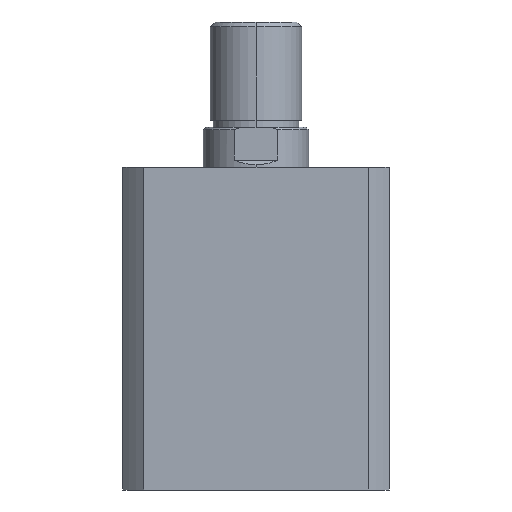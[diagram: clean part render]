
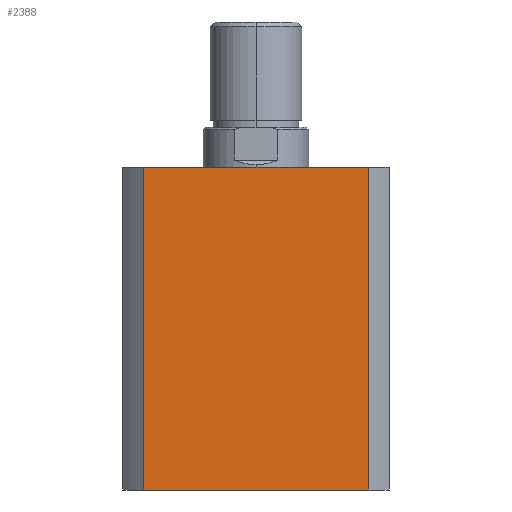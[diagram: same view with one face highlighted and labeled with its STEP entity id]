
A CAD part, left-side view. The second image highlights one B-rep face of the part: STEP entity #2388.
In plain terms, the highlighted planar face has unit normal (-1, 0, 0).
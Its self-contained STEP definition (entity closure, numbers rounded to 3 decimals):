
#99 = DIRECTION ( 'NONE',  ( 0., 0., -1. ) ) ;
#100 = DIRECTION ( 'NONE',  ( 1., 0., 0. ) ) ;
#103 = PLANE ( 'NONE',  #1594 ) ;
#105 = CARTESIAN_POINT ( 'NONE',  ( -57., 0., 138. ) ) ;
#475 = EDGE_CURVE ( 'NONE', #3619, #4977, #3753, .T. ) ;
#627 = EDGE_CURVE ( 'NONE', #3583, #4985, #4537, .T. ) ;
#628 = EDGE_CURVE ( 'NONE', #3619, #3583, #4536, .T. ) ;
#774 = EDGE_CURVE ( 'NONE', #4977, #4985, #3242, .T. ) ;
#979 = DIRECTION ( 'NONE',  ( 0., 0., -1. ) ) ;
#980 = CARTESIAN_POINT ( 'NONE',  ( -57., 47.971, 138. ) ) ;
#1153 = ORIENTED_EDGE ( 'NONE', *, *, #774, .T. ) ;
#1154 = ORIENTED_EDGE ( 'NONE', *, *, #627, .F. ) ;
#1155 = ORIENTED_EDGE ( 'NONE', *, *, #628, .F. ) ;
#1156 = ORIENTED_EDGE ( 'NONE', *, *, #475, .T. ) ;
#1248 = EDGE_LOOP ( 'NONE', ( #1153, #1154, #1155, #1156 ) ) ;
#1594 = AXIS2_PLACEMENT_3D ( 'NONE', #105, #100, #99 ) ;
#2097 = DIRECTION ( 'NONE',  ( 0., -1., 0. ) ) ;
#2099 = CARTESIAN_POINT ( 'NONE',  ( -57., 0., 0. ) ) ;
#2388 = ADVANCED_FACE ( 'NONE', ( #3431 ), #103, .F. ) ;
#2781 = DIRECTION ( 'NONE',  ( 0., -1., 0. ) ) ;
#2786 = CARTESIAN_POINT ( 'NONE',  ( -57., 0., 138. ) ) ;
#2798 = DIRECTION ( 'NONE',  ( 0., 0., -1. ) ) ;
#2800 = CARTESIAN_POINT ( 'NONE',  ( -57., -47.971, 138. ) ) ;
#3152 = CARTESIAN_POINT ( 'NONE',  ( -57., 47.971, 0. ) ) ;
#3160 = CARTESIAN_POINT ( 'NONE',  ( -57., -47.971, 0. ) ) ;
#3242 = LINE ( 'NONE', #2099, #3244 ) ;
#3244 = VECTOR ( 'NONE', #2097, 1000. ) ;
#3431 = FACE_OUTER_BOUND ( 'NONE', #1248, .T. ) ;
#3583 = VERTEX_POINT ( 'NONE', #5087 ) ;
#3619 = VERTEX_POINT ( 'NONE', #5056 ) ;
#3753 = LINE ( 'NONE', #980, #3756 ) ;
#3756 = VECTOR ( 'NONE', #979, 1000. ) ;
#4536 = LINE ( 'NONE', #2786, #4540 ) ;
#4537 = LINE ( 'NONE', #2800, #4538 ) ;
#4538 = VECTOR ( 'NONE', #2798, 1000. ) ;
#4540 = VECTOR ( 'NONE', #2781, 1000. ) ;
#4977 = VERTEX_POINT ( 'NONE', #3152 ) ;
#4985 = VERTEX_POINT ( 'NONE', #3160 ) ;
#5056 = CARTESIAN_POINT ( 'NONE',  ( -57., 47.971, 138. ) ) ;
#5087 = CARTESIAN_POINT ( 'NONE',  ( -57., -47.971, 138. ) ) ;
